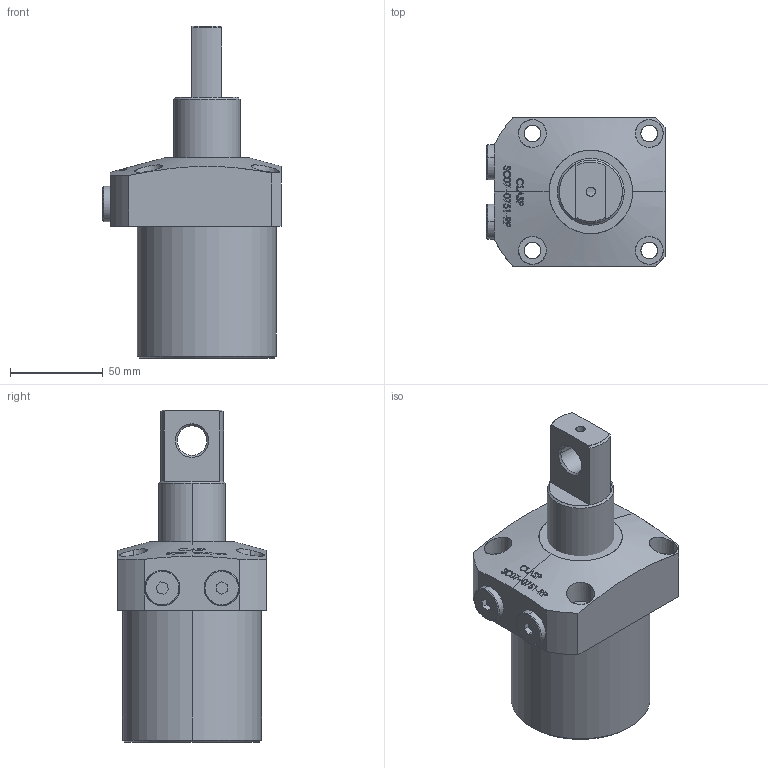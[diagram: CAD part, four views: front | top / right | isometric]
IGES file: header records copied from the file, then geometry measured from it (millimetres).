
Start section: SolidWorks IGES file using analytic representation for surfaces
Global section: file name: D:\karuppas\Clasp\3D model\SWING CYLINDER\Top Mounting swing cylinder-P type\SC07-0751-RP\SC07-0751-RP.IGS; native system: SolidWorks 2017; preprocessor: SolidWorks 2017; author: pc; date: 220708.222813; units: millimetre
Bounding box: 96 x 80 x 179 mm (x, y, z)
Surface area: 60815.7 mm2 (no closed solid volume)
Topology: 0 solids, 0 shells, 319 faces, 5527 edges, 5527 vertices
Faces by surface type: bspline 243, revolution 76
